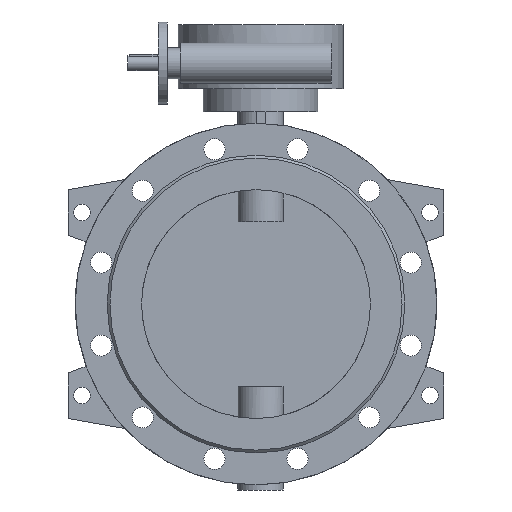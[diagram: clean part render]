
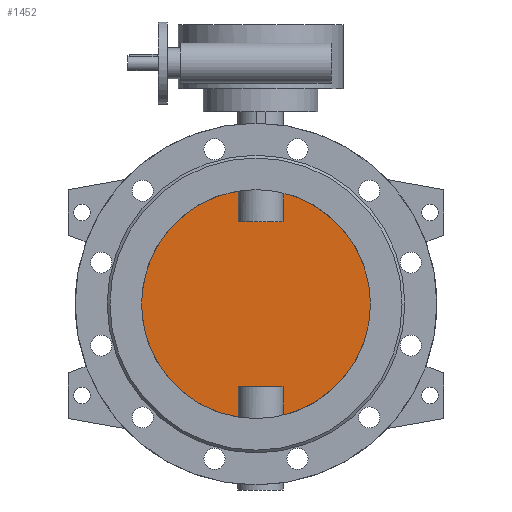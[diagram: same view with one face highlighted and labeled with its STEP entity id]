
A CAD part, front view. The second image highlights one B-rep face of the part: STEP entity #1452.
In plain terms, the highlighted planar face has unit normal (0, -1, 0).
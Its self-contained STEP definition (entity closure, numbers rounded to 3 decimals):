
#1452=ADVANCED_FACE('',(#2974),#2976,.F.);
#2974=FACE_BOUND('',#2975,.T.);
#2975=EDGE_LOOP('',(#3768,#3769,#3770,#3771,#3772,#3773,#3774,#3775));
#2976=PLANE('',#2977);
#2977=AXIS2_PLACEMENT_3D('',#2978,#2979,#2980);
#2978=CARTESIAN_POINT('',(0.,-5.,0.));
#2979=DIRECTION('',(0.,1.,0.));
#2980=DIRECTION('',(1.,0.,0.));
#3768=ORIENTED_EDGE('',*,*,#4165,.T.);
#3769=ORIENTED_EDGE('',*,*,#4171,.T.);
#3770=ORIENTED_EDGE('',*,*,#4172,.T.);
#3771=ORIENTED_EDGE('',*,*,#4173,.T.);
#3772=ORIENTED_EDGE('',*,*,#4167,.T.);
#3773=ORIENTED_EDGE('',*,*,#4174,.T.);
#3774=ORIENTED_EDGE('',*,*,#4175,.T.);
#3775=ORIENTED_EDGE('',*,*,#4176,.T.);
#4165=EDGE_CURVE('',#4802,#4803,#4804,.F.);
#4167=EDGE_CURVE('',#4807,#4805,#4808,.F.);
#4171=EDGE_CURVE('',#4803,#4814,#4815,.T.);
#4172=EDGE_CURVE('',#4814,#4816,#4817,.F.);
#4173=EDGE_CURVE('',#4816,#4807,#4818,.F.);
#4174=EDGE_CURVE('',#4805,#4819,#4820,.F.);
#4175=EDGE_CURVE('',#4819,#4821,#4822,.F.);
#4176=EDGE_CURVE('',#4821,#4802,#4823,.T.);
#4802=VERTEX_POINT('',#7252);
#4803=VERTEX_POINT('',#7253);
#4804=CIRCLE('',#7254,125.);
#4805=VERTEX_POINT('',#7258);
#4807=VERTEX_POINT('',#7356);
#4808=CIRCLE('',#7357,125.);
#4814=VERTEX_POINT('',#7482);
#4815=LINE('',#7483,#7484);
#4816=VERTEX_POINT('',#7486);
#4817=LINE('',#7487,#7488);
#4818=LINE('',#7490,#7491);
#4819=VERTEX_POINT('',#7493);
#4820=LINE('',#7494,#7495);
#4821=VERTEX_POINT('',#7497);
#4822=LINE('',#7498,#7499);
#4823=LINE('',#7501,#7502);
#7252=CARTESIAN_POINT('',(29.495,-5.,-121.47));
#7253=CARTESIAN_POINT('',(29.495,-5.,121.47));
#7254=AXIS2_PLACEMENT_3D('',#7255,#7256,#7257);
#7255=CARTESIAN_POINT('',(0.,-5.,0.));
#7256=DIRECTION('',(0.,1.,0.));
#7257=DIRECTION('',(0.236,0.,0.972));
#7258=CARTESIAN_POINT('',(-19.495,-5.,-123.47));
#7356=CARTESIAN_POINT('',(-19.495,-5.,123.47));
#7357=AXIS2_PLACEMENT_3D('',#7358,#7359,#7360);
#7358=CARTESIAN_POINT('',(0.,-5.,0.));
#7359=DIRECTION('',(0.,1.,0.));
#7360=DIRECTION('',(-0.156,0.,-0.988));
#7482=CARTESIAN_POINT('',(29.495,-5.,90.));
#7483=CARTESIAN_POINT('',(29.495,-5.,121.47));
#7484=VECTOR('',#7485,1.);
#7485=DIRECTION('',(0.,0.,-1.));
#7486=CARTESIAN_POINT('',(-19.495,-5.,90.));
#7487=CARTESIAN_POINT('',(-19.495,-5.,90.));
#7488=VECTOR('',#7489,1.);
#7489=DIRECTION('',(1.,0.,0.));
#7490=CARTESIAN_POINT('',(-19.495,-5.,123.47));
#7491=VECTOR('',#7492,1.);
#7492=DIRECTION('',(0.,0.,-1.));
#7493=CARTESIAN_POINT('',(-19.495,-5.,-90.));
#7494=CARTESIAN_POINT('',(-19.495,-5.,-90.));
#7495=VECTOR('',#7496,1.);
#7496=DIRECTION('',(0.,0.,-1.));
#7497=CARTESIAN_POINT('',(29.495,-5.,-90.));
#7498=CARTESIAN_POINT('',(29.495,-5.,-90.));
#7499=VECTOR('',#7500,1.);
#7500=DIRECTION('',(-1.,0.,0.));
#7501=CARTESIAN_POINT('',(29.495,-5.,-90.));
#7502=VECTOR('',#7503,1.);
#7503=DIRECTION('',(0.,0.,-1.));
